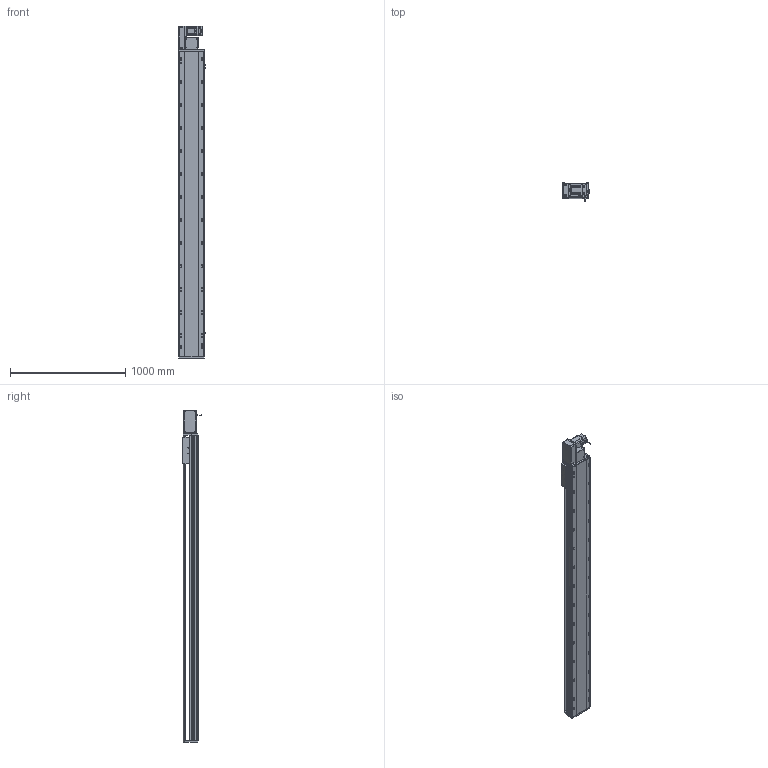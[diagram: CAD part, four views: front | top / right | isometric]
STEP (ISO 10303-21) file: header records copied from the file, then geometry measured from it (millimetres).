
FILE_DESCRIPTION (( 'STEP AP214' ), '1' );
FILE_NAME ('RTB22S-XX-2300-L-M75-C4.STEP', '2025-12-12T03:26:26', ( '' ), ( '' ), 'SwSTEP 2.0', 'SolidWorks 2018', '' );
FILE_SCHEMA (( 'AUTOMOTIVE_DESIGN' ));
Length unit declared in the file: millimetre
Products named in the file (14): RTB22S-GY-001耜裔^RTB22S-XX-XX-L-M75-C4; RTB22S-GY-017P^RTB22S-L-々湍釱蚾饜_RTB22S-XX-XX-L-M75-C4; RTB22S-GY-014--々湍釱^RTB22S-L-々湍釱蚾饜_RTB22S-XX-XX-L-M75-C4; RTB22S-GY-005P^RTB22S-L-々湍釱蚾饜_RTB22S-XX-XX-L-M75-C4; RTB22S-L-011菁釱^RTB22S-XX-XX-L-M75-C4; OMRON EE-SX672 传感器^RTB22S-XX-XX-L-M75-C4; 750W萇儂^RTB22S-XX-XX-L-M75-C4; RTB22S-GY-007奻裔^RTB22S-XX-XX-L-M75-C4; RTB22S-L-004賑釱^RTB22S-XX-XX-L-M75-C4; RTB22S-XX-2300-L-M75-C4; RTB22S-GY-018P^RTB22S-L-々湍釱蚾饜_RTB22S-XX-XX-L-M75-C4; RTB22S-L-々湍釱蚾饜^RTB22S-XX-XX-L-M75-C4; RTH22-GY-013外置感应片^RTB22S-XX-XX-L-M75-C4; RTB22S-GY-008-M75--萇儂啣^RTB22S-L-々湍釱蚾饜_RTB22S-XX-XX-L-M75-C4
Assembly tree (16 placements, depth 3):
  RTB22S-XX-2300-L-M75-C4
    RTB22S-L-011菁釱^RTB22S-XX-XX-L-M75-C4
    750W萇儂^RTB22S-XX-XX-L-M75-C4
    RTB22S-L-004賑釱^RTB22S-XX-XX-L-M75-C4
    OMRON EE-SX672 传感器^RTB22S-XX-XX-L-M75-C4  x3
    RTH22-GY-013外置感应片^RTB22S-XX-XX-L-M75-C4
    RTB22S-GY-007奻裔^RTB22S-XX-XX-L-M75-C4
    RTB22S-GY-001耜裔^RTB22S-XX-XX-L-M75-C4
    RTB22S-L-々湍釱蚾饜^RTB22S-XX-XX-L-M75-C4
      RTB22S-GY-014--々湍釱^RTB22S-L-々湍釱蚾饜_RTB22S-XX-XX-L-M75-C4
      RTB22S-GY-017P^RTB22S-L-々湍釱蚾饜_RTB22S-XX-XX-L-M75-C4  x2
      RTB22S-GY-005P^RTB22S-L-々湍釱蚾饜_RTB22S-XX-XX-L-M75-C4
      RTB22S-GY-008-M75--萇儂啣^RTB22S-L-々湍釱蚾饜_RTB22S-XX-XX-L-M75-C4
      RTB22S-GY-018P^RTB22S-L-々湍釱蚾饜_RTB22S-XX-XX-L-M75-C4
Bounding box: 238.5 x 162.7 x 2879 mm (x, y, z)
Volume: 36432705 mm3; surface area: 3731273.5 mm2
Topology: 15 solids, 15 shells, 2091 faces, 5686 edges, 3632 vertices
Faces by surface type: plane 927, cylinder 694, bspline 296, cone 162, sphere 8, torus 4
Entity records: 56716 total; most frequent: CARTESIAN_POINT 16060, ORIENTED_EDGE 8112, DIRECTION 7910, EDGE_CURVE 4056, AXIS2_PLACEMENT_3D 2830, VERTEX_POINT 2636, VECTOR 2250, LINE 2250
